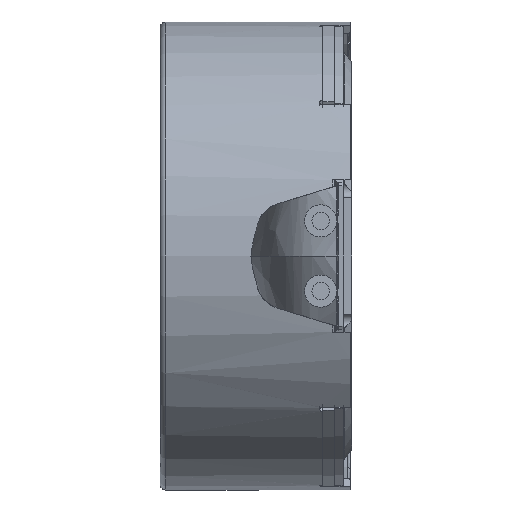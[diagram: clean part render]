
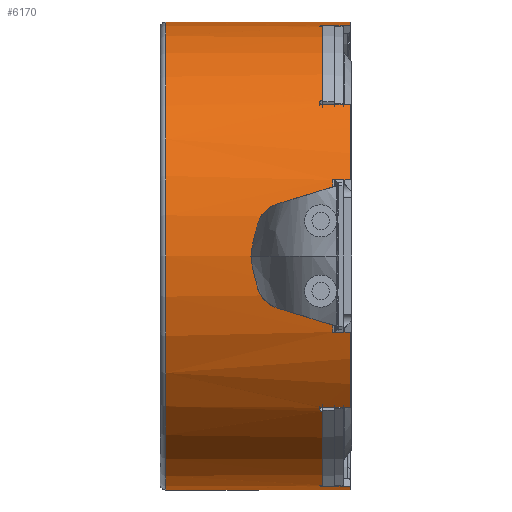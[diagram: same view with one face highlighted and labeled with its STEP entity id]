
A CAD part, front view. The second image highlights one B-rep face of the part: STEP entity #6170.
In plain terms, the highlighted cylindrical face has radius 4 mm (diameter 8 mm), a partial arc.
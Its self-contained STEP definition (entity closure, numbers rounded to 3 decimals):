
#6123 = VERTEX_POINT('',#6124);
#6124 = CARTESIAN_POINT('',(-4.,0.,0.1));
#6132 = VERTEX_POINT('',#6133);
#6133 = CARTESIAN_POINT('',(4.,0.,0.1));
#6157 = EDGE_CURVE('',#6132,#6123,#6158,.T.);
#6158 = CIRCLE('',#6159,4.);
#6159 = AXIS2_PLACEMENT_3D('',#6160,#6161,#6162);
#6160 = CARTESIAN_POINT('',(0.,0.,0.1));
#6161 = DIRECTION('',(0.,0.,-1.));
#6162 = DIRECTION('',(1.,0.,0.));
#6170 = ADVANCED_FACE('',(#6171),#6343,.T.);
#6171 = FACE_BOUND('',#6172,.T.);
#6172 = EDGE_LOOP('',(#6173,#6184,#6192,#6201,#6209,#6220,#6229,#6240,
    #6248,#6257,#6263,#6264,#6272,#6281,#6289,#6300,#6309,#6320,#6328,
    #6337));
#6173 = ORIENTED_EDGE('',*,*,#6174,.F.);
#6174 = EDGE_CURVE('',#6175,#6177,#6179,.T.);
#6175 = VERTEX_POINT('',#6176);
#6176 = CARTESIAN_POINT('',(-1.3,-3.783,2.95));
#6177 = VERTEX_POINT('',#6178);
#6178 = CARTESIAN_POINT('',(1.3,-3.783,2.95));
#6179 = CIRCLE('',#6180,4.);
#6180 = AXIS2_PLACEMENT_3D('',#6181,#6182,#6183);
#6181 = CARTESIAN_POINT('',(0.,0.,2.95));
#6182 = DIRECTION('',(0.,0.,1.));
#6183 = DIRECTION('',(-0.325,-0.946,0.));
#6184 = ORIENTED_EDGE('',*,*,#6185,.T.);
#6185 = EDGE_CURVE('',#6175,#6186,#6188,.T.);
#6186 = VERTEX_POINT('',#6187);
#6187 = CARTESIAN_POINT('',(-1.3,-3.783,3.25));
#6188 = LINE('',#6189,#6190);
#6189 = CARTESIAN_POINT('',(-1.3,-3.783,2.95));
#6190 = VECTOR('',#6191,1.);
#6191 = DIRECTION('',(0.,0.,1.));
#6192 = ORIENTED_EDGE('',*,*,#6193,.F.);
#6193 = EDGE_CURVE('',#6194,#6186,#6196,.T.);
#6194 = VERTEX_POINT('',#6195);
#6195 = CARTESIAN_POINT('',(-2.586,-3.052,3.25));
#6196 = CIRCLE('',#6197,4.);
#6197 = AXIS2_PLACEMENT_3D('',#6198,#6199,#6200);
#6198 = CARTESIAN_POINT('',(0.,0.,3.25));
#6199 = DIRECTION('',(0.,0.,1.));
#6200 = DIRECTION('',(-0.646,-0.763,0.));
#6201 = ORIENTED_EDGE('',*,*,#6202,.F.);
#6202 = EDGE_CURVE('',#6203,#6194,#6205,.T.);
#6203 = VERTEX_POINT('',#6204);
#6204 = CARTESIAN_POINT('',(-2.586,-3.052,2.78));
#6205 = LINE('',#6206,#6207);
#6206 = CARTESIAN_POINT('',(-2.586,-3.052,2.78));
#6207 = VECTOR('',#6208,1.);
#6208 = DIRECTION('',(0.,0.,1.));
#6209 = ORIENTED_EDGE('',*,*,#6210,.T.);
#6210 = EDGE_CURVE('',#6203,#6211,#6213,.T.);
#6211 = VERTEX_POINT('',#6212);
#6212 = CARTESIAN_POINT('',(-2.666,-2.982,2.78));
#6213 = B_SPLINE_CURVE_WITH_KNOTS('',3,(#6214,#6215,#6216,#6217,#6218,
    #6219),.UNSPECIFIED.,.F.,.F.,(4,2,4),(0.,0.5,1.),.UNSPECIFIED.);
#6214 = CARTESIAN_POINT('',(-2.586,-3.052,2.78));
#6215 = CARTESIAN_POINT('',(-2.586,-3.052,
    2.753));
#6216 = CARTESIAN_POINT('',(-2.604,-3.037,2.73)
  );
#6217 = CARTESIAN_POINT('',(-2.648,-2.998,
    2.73));
#6218 = CARTESIAN_POINT('',(-2.665,-2.983,
    2.753));
#6219 = CARTESIAN_POINT('',(-2.666,-2.982,2.78));
#6220 = ORIENTED_EDGE('',*,*,#6221,.F.);
#6221 = EDGE_CURVE('',#6222,#6211,#6224,.T.);
#6222 = VERTEX_POINT('',#6223);
#6223 = CARTESIAN_POINT('',(-3.916,-0.817,2.78));
#6224 = CIRCLE('',#6225,4.);
#6225 = AXIS2_PLACEMENT_3D('',#6226,#6227,#6228);
#6226 = CARTESIAN_POINT('',(0.,0.,2.78));
#6227 = DIRECTION('',(0.,0.,1.));
#6228 = DIRECTION('',(-0.979,-0.204,0.));
#6229 = ORIENTED_EDGE('',*,*,#6230,.T.);
#6230 = EDGE_CURVE('',#6222,#6231,#6233,.T.);
#6231 = VERTEX_POINT('',#6232);
#6232 = CARTESIAN_POINT('',(-3.936,-0.714,2.78));
#6233 = B_SPLINE_CURVE_WITH_KNOTS('',3,(#6234,#6235,#6236,#6237,#6238,
    #6239),.UNSPECIFIED.,.F.,.F.,(4,2,4),(0.,0.5,1.),.UNSPECIFIED.);
#6234 = CARTESIAN_POINT('',(-3.916,-0.817,2.78));
#6235 = CARTESIAN_POINT('',(-3.916,-0.817,
    2.753));
#6236 = CARTESIAN_POINT('',(-3.92,-0.795,
    2.73));
#6237 = CARTESIAN_POINT('',(-3.932,-0.736,
    2.73));
#6238 = CARTESIAN_POINT('',(-3.936,-0.714,
    2.753));
#6239 = CARTESIAN_POINT('',(-3.936,-0.714,2.78));
#6240 = ORIENTED_EDGE('',*,*,#6241,.T.);
#6241 = EDGE_CURVE('',#6231,#6242,#6244,.T.);
#6242 = VERTEX_POINT('',#6243);
#6243 = CARTESIAN_POINT('',(-3.936,-0.714,3.25));
#6244 = LINE('',#6245,#6246);
#6245 = CARTESIAN_POINT('',(-3.936,-0.714,2.78));
#6246 = VECTOR('',#6247,1.);
#6247 = DIRECTION('',(0.,0.,1.));
#6248 = ORIENTED_EDGE('',*,*,#6249,.F.);
#6249 = EDGE_CURVE('',#6250,#6242,#6252,.T.);
#6250 = VERTEX_POINT('',#6251);
#6251 = CARTESIAN_POINT('',(-4.,0.,3.25));
#6252 = CIRCLE('',#6253,4.);
#6253 = AXIS2_PLACEMENT_3D('',#6254,#6255,#6256);
#6254 = CARTESIAN_POINT('',(0.,0.,3.25));
#6255 = DIRECTION('',(0.,0.,1.));
#6256 = DIRECTION('',(-1.,0.,0.));
#6257 = ORIENTED_EDGE('',*,*,#6258,.F.);
#6258 = EDGE_CURVE('',#6123,#6250,#6259,.T.);
#6259 = LINE('',#6260,#6261);
#6260 = CARTESIAN_POINT('',(-4.,0.,0.1));
#6261 = VECTOR('',#6262,1.);
#6262 = DIRECTION('',(0.,0.,1.));
#6263 = ORIENTED_EDGE('',*,*,#6157,.F.);
#6264 = ORIENTED_EDGE('',*,*,#6265,.T.);
#6265 = EDGE_CURVE('',#6132,#6266,#6268,.T.);
#6266 = VERTEX_POINT('',#6267);
#6267 = CARTESIAN_POINT('',(4.,0.,3.25));
#6268 = LINE('',#6269,#6270);
#6269 = CARTESIAN_POINT('',(4.,0.,0.1));
#6270 = VECTOR('',#6271,1.);
#6271 = DIRECTION('',(0.,0.,1.));
#6272 = ORIENTED_EDGE('',*,*,#6273,.F.);
#6273 = EDGE_CURVE('',#6274,#6266,#6276,.T.);
#6274 = VERTEX_POINT('',#6275);
#6275 = CARTESIAN_POINT('',(3.936,-0.714,3.25));
#6276 = CIRCLE('',#6277,4.);
#6277 = AXIS2_PLACEMENT_3D('',#6278,#6279,#6280);
#6278 = CARTESIAN_POINT('',(0.,0.,3.25));
#6279 = DIRECTION('',(0.,0.,1.));
#6280 = DIRECTION('',(0.984,-0.178,0.));
#6281 = ORIENTED_EDGE('',*,*,#6282,.F.);
#6282 = EDGE_CURVE('',#6283,#6274,#6285,.T.);
#6283 = VERTEX_POINT('',#6284);
#6284 = CARTESIAN_POINT('',(3.936,-0.714,2.78));
#6285 = LINE('',#6286,#6287);
#6286 = CARTESIAN_POINT('',(3.936,-0.714,2.78));
#6287 = VECTOR('',#6288,1.);
#6288 = DIRECTION('',(0.,0.,1.));
#6289 = ORIENTED_EDGE('',*,*,#6290,.T.);
#6290 = EDGE_CURVE('',#6283,#6291,#6293,.T.);
#6291 = VERTEX_POINT('',#6292);
#6292 = CARTESIAN_POINT('',(3.916,-0.817,2.78));
#6293 = B_SPLINE_CURVE_WITH_KNOTS('',3,(#6294,#6295,#6296,#6297,#6298,
    #6299),.UNSPECIFIED.,.F.,.F.,(4,2,4),(0.,0.5,1.),.UNSPECIFIED.);
#6294 = CARTESIAN_POINT('',(3.936,-0.714,2.78));
#6295 = CARTESIAN_POINT('',(3.936,-0.714,2.753
    ));
#6296 = CARTESIAN_POINT('',(3.932,-0.736,
    2.73));
#6297 = CARTESIAN_POINT('',(3.92,-0.795,2.73
    ));
#6298 = CARTESIAN_POINT('',(3.916,-0.817,
    2.753));
#6299 = CARTESIAN_POINT('',(3.916,-0.817,2.78));
#6300 = ORIENTED_EDGE('',*,*,#6301,.F.);
#6301 = EDGE_CURVE('',#6302,#6291,#6304,.T.);
#6302 = VERTEX_POINT('',#6303);
#6303 = CARTESIAN_POINT('',(2.666,-2.982,2.78));
#6304 = CIRCLE('',#6305,4.);
#6305 = AXIS2_PLACEMENT_3D('',#6306,#6307,#6308);
#6306 = CARTESIAN_POINT('',(0.,0.,2.78));
#6307 = DIRECTION('',(0.,0.,1.));
#6308 = DIRECTION('',(0.666,-0.746,0.));
#6309 = ORIENTED_EDGE('',*,*,#6310,.T.);
#6310 = EDGE_CURVE('',#6302,#6311,#6313,.T.);
#6311 = VERTEX_POINT('',#6312);
#6312 = CARTESIAN_POINT('',(2.586,-3.052,2.78));
#6313 = B_SPLINE_CURVE_WITH_KNOTS('',3,(#6314,#6315,#6316,#6317,#6318,
    #6319),.UNSPECIFIED.,.F.,.F.,(4,2,4),(0.,0.5,1.),.UNSPECIFIED.);
#6314 = CARTESIAN_POINT('',(2.666,-2.982,2.78));
#6315 = CARTESIAN_POINT('',(2.665,-2.983,2.753
    ));
#6316 = CARTESIAN_POINT('',(2.649,-2.998,
    2.73));
#6317 = CARTESIAN_POINT('',(2.604,-3.037,
    2.73));
#6318 = CARTESIAN_POINT('',(2.586,-3.052,
    2.753));
#6319 = CARTESIAN_POINT('',(2.586,-3.052,2.78));
#6320 = ORIENTED_EDGE('',*,*,#6321,.T.);
#6321 = EDGE_CURVE('',#6311,#6322,#6324,.T.);
#6322 = VERTEX_POINT('',#6323);
#6323 = CARTESIAN_POINT('',(2.586,-3.052,3.25));
#6324 = LINE('',#6325,#6326);
#6325 = CARTESIAN_POINT('',(2.586,-3.052,2.78));
#6326 = VECTOR('',#6327,1.);
#6327 = DIRECTION('',(0.,0.,1.));
#6328 = ORIENTED_EDGE('',*,*,#6329,.F.);
#6329 = EDGE_CURVE('',#6330,#6322,#6332,.T.);
#6330 = VERTEX_POINT('',#6331);
#6331 = CARTESIAN_POINT('',(1.3,-3.783,3.25));
#6332 = CIRCLE('',#6333,4.);
#6333 = AXIS2_PLACEMENT_3D('',#6334,#6335,#6336);
#6334 = CARTESIAN_POINT('',(0.,0.,3.25));
#6335 = DIRECTION('',(0.,0.,1.));
#6336 = DIRECTION('',(0.325,-0.946,0.));
#6337 = ORIENTED_EDGE('',*,*,#6338,.F.);
#6338 = EDGE_CURVE('',#6177,#6330,#6339,.T.);
#6339 = LINE('',#6340,#6341);
#6340 = CARTESIAN_POINT('',(1.3,-3.783,2.95));
#6341 = VECTOR('',#6342,1.);
#6342 = DIRECTION('',(0.,0.,1.));
#6343 = CYLINDRICAL_SURFACE('',#6344,4.);
#6344 = AXIS2_PLACEMENT_3D('',#6345,#6346,#6347);
#6345 = CARTESIAN_POINT('',(0.,0.,0.));
#6346 = DIRECTION('',(0.,0.,1.));
#6347 = DIRECTION('',(1.,0.,-0.));
